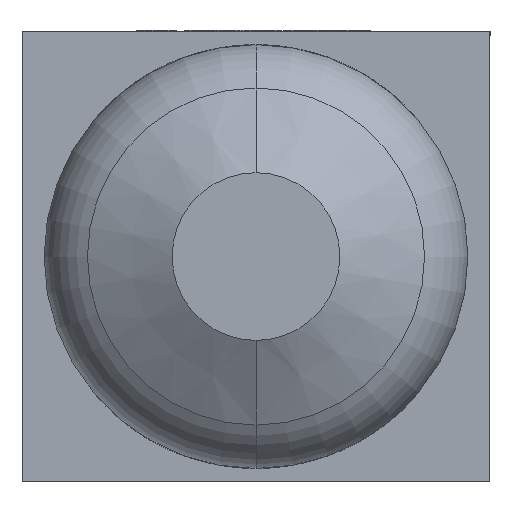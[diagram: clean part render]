
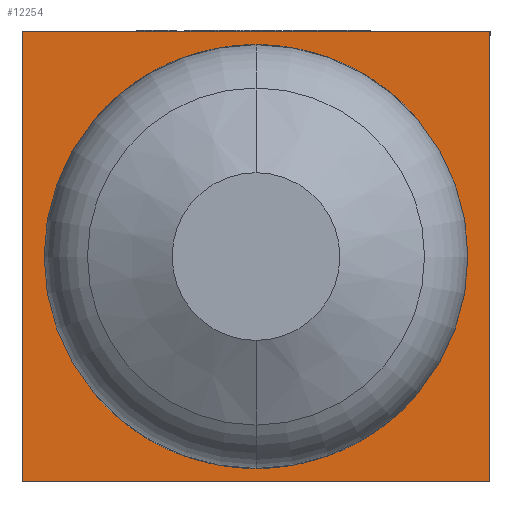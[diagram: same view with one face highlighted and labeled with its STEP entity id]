
A CAD part, front view. The second image highlights one B-rep face of the part: STEP entity #12254.
In plain terms, the highlighted planar face has unit normal (0, -1, 0).
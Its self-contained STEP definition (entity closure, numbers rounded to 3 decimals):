
#416 = ORIENTED_EDGE ( 'NONE', *, *, #11257, .F. ) ;
#958 = CARTESIAN_POINT ( 'NONE',  ( 26.5, -25.5, 25.5 ) ) ;
#1333 = VECTOR ( 'NONE', #6656, 1000. ) ;
#1401 = ORIENTED_EDGE ( 'NONE', *, *, #2842, .F. ) ;
#1458 = EDGE_CURVE ( 'NONE', #8135, #3636, #3423, .T. ) ;
#1884 = CARTESIAN_POINT ( 'NONE',  ( -26.5, -25.5, 25.5 ) ) ;
#1991 = CARTESIAN_POINT ( 'NONE',  ( -26.5, -25.5, 25.5 ) ) ;
#2537 = LINE ( 'NONE', #12316, #7240 ) ;
#2842 = EDGE_CURVE ( 'NONE', #9476, #6251, #12252, .T. ) ;
#3280 = CARTESIAN_POINT ( 'NONE',  ( -26.5, -25.5, -25.5 ) ) ;
#3400 = VECTOR ( 'NONE', #8082, 1000. ) ;
#3423 = LINE ( 'NONE', #13204, #1333 ) ;
#3636 = VERTEX_POINT ( 'NONE', #10424 ) ;
#4189 = EDGE_LOOP ( 'NONE', ( #7597, #416, #1401, #8007 ) ) ;
#5656 = FACE_OUTER_BOUND ( 'NONE', #4189, .T. ) ;
#5890 = CARTESIAN_POINT ( 'NONE',  ( -26.5, -25.5, 25.5 ) ) ;
#6251 = VERTEX_POINT ( 'NONE', #958 ) ;
#6316 = DIRECTION ( 'NONE',  ( 0., 0., -1. ) ) ;
#6656 = DIRECTION ( 'NONE',  ( 1., 0., 0. ) ) ;
#6943 = AXIS2_PLACEMENT_3D ( 'NONE', #1884, #10668, #12918 ) ;
#7240 = VECTOR ( 'NONE', #10056, 1000. ) ;
#7323 = PLANE ( 'NONE',  #6943 ) ;
#7597 = ORIENTED_EDGE ( 'NONE', *, *, #1458, .T. ) ;
#8007 = ORIENTED_EDGE ( 'NONE', *, *, #9068, .T. ) ;
#8082 = DIRECTION ( 'NONE',  ( 1., 0., 0. ) ) ;
#8135 = VERTEX_POINT ( 'NONE', #3280 ) ;
#8340 = CARTESIAN_POINT ( 'NONE',  ( -26.5, -25.5, 25.5 ) ) ;
#9068 = EDGE_CURVE ( 'NONE', #9476, #8135, #9904, .T. ) ;
#9476 = VERTEX_POINT ( 'NONE', #8340 ) ;
#9904 = LINE ( 'NONE', #1991, #11274 ) ;
#10056 = DIRECTION ( 'NONE',  ( 0., 0., -1. ) ) ;
#10424 = CARTESIAN_POINT ( 'NONE',  ( 26.5, -25.5, -25.5 ) ) ;
#10668 = DIRECTION ( 'NONE',  ( 0., 1., 0. ) ) ;
#11257 = EDGE_CURVE ( 'NONE', #6251, #3636, #2537, .T. ) ;
#11274 = VECTOR ( 'NONE', #6316, 1000. ) ;
#12252 = LINE ( 'NONE', #5890, #3400 ) ;
#12254 = ADVANCED_FACE ( 'NONE', ( #5656 ), #7323, .F. ) ;
#12316 = CARTESIAN_POINT ( 'NONE',  ( 26.5, -25.5, 25.5 ) ) ;
#12918 = DIRECTION ( 'NONE',  ( -1., 0., 0. ) ) ;
#13204 = CARTESIAN_POINT ( 'NONE',  ( -26.5, -25.5, -25.5 ) ) ;
